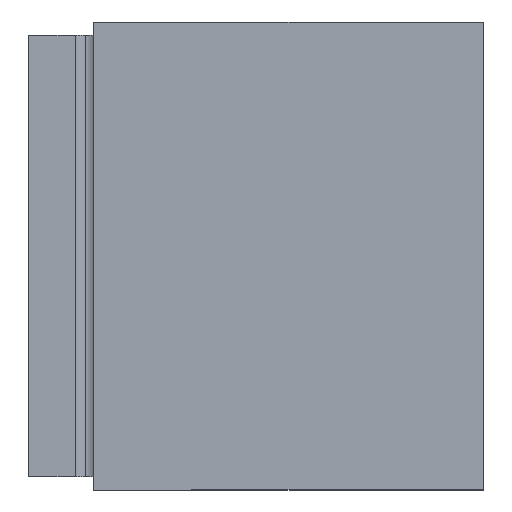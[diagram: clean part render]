
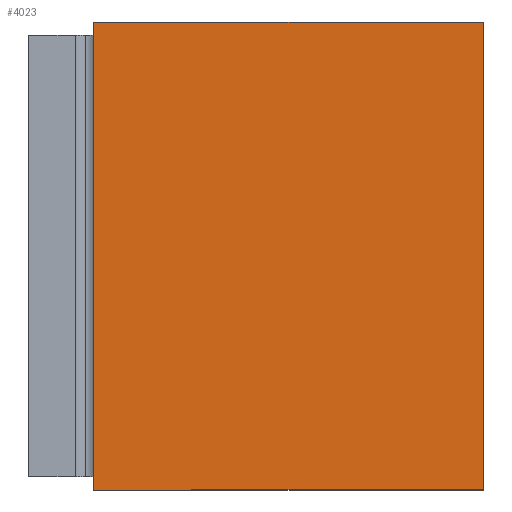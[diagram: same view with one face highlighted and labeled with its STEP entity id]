
A CAD part, left-side view. The second image highlights one B-rep face of the part: STEP entity #4023.
In plain terms, the highlighted planar face has unit normal (-1, 0, 0).
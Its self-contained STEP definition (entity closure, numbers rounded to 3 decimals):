
#90 = EDGE_CURVE ( 'NONE', #6355, #4026, #2183, .T. ) ;
#177 = CARTESIAN_POINT ( 'NONE',  ( -310., 150., 90. ) ) ;
#663 = DIRECTION ( 'NONE',  ( 0., -1., 0. ) ) ;
#947 = EDGE_CURVE ( 'NONE', #5246, #6355, #5294, .T. ) ;
#1073 = DIRECTION ( 'NONE',  ( -1., 0., 0. ) ) ;
#1084 = CARTESIAN_POINT ( 'NONE',  ( -310., 175., -90. ) ) ;
#1583 = CARTESIAN_POINT ( 'NONE',  ( -310., 150., -90. ) ) ;
#1628 = FACE_OUTER_BOUND ( 'NONE', #5851, .T. ) ;
#1806 = EDGE_CURVE ( 'NONE', #3176, #4026, #2793, .T. ) ;
#2183 = LINE ( 'NONE', #2251, #3531 ) ;
#2201 = CARTESIAN_POINT ( 'NONE',  ( -310., 0., -90. ) ) ;
#2251 = CARTESIAN_POINT ( 'NONE',  ( -310., 0., 90. ) ) ;
#2357 = CARTESIAN_POINT ( 'NONE',  ( -310., 0., 90. ) ) ;
#2711 = PLANE ( 'NONE',  #5735 ) ;
#2734 = CARTESIAN_POINT ( 'NONE',  ( -310., 150., 90. ) ) ;
#2768 = DIRECTION ( 'NONE',  ( 0., 0., -1. ) ) ;
#2793 = LINE ( 'NONE', #1084, #6280 ) ;
#3148 = CARTESIAN_POINT ( 'NONE',  ( -310., 175., 90. ) ) ;
#3176 = VERTEX_POINT ( 'NONE', #1583 ) ;
#3210 = DIRECTION ( 'NONE',  ( 0., 0., -1. ) ) ;
#3304 = VECTOR ( 'NONE', #3210, 1000. ) ;
#3531 = VECTOR ( 'NONE', #2768, 1000. ) ;
#3609 = LINE ( 'NONE', #2734, #3304 ) ;
#3762 = VECTOR ( 'NONE', #5215, 1000. ) ;
#4023 = ADVANCED_FACE ( 'NONE', ( #1628 ), #2711, .T. ) ;
#4026 = VERTEX_POINT ( 'NONE', #2201 ) ;
#4340 = CARTESIAN_POINT ( 'NONE',  ( -310., 175., 90. ) ) ;
#4397 = ORIENTED_EDGE ( 'NONE', *, *, #90, .F. ) ;
#4917 = DIRECTION ( 'NONE',  ( 0., 0., 1. ) ) ;
#5134 = ORIENTED_EDGE ( 'NONE', *, *, #1806, .T. ) ;
#5215 = DIRECTION ( 'NONE',  ( 0., -1., 0. ) ) ;
#5246 = VERTEX_POINT ( 'NONE', #177 ) ;
#5294 = LINE ( 'NONE', #3148, #3762 ) ;
#5735 = AXIS2_PLACEMENT_3D ( 'NONE', #4340, #1073, #4917 ) ;
#5851 = EDGE_LOOP ( 'NONE', ( #6064, #6843, #5134, #4397 ) ) ;
#6064 = ORIENTED_EDGE ( 'NONE', *, *, #947, .F. ) ;
#6093 = EDGE_CURVE ( 'NONE', #5246, #3176, #3609, .T. ) ;
#6280 = VECTOR ( 'NONE', #663, 1000. ) ;
#6355 = VERTEX_POINT ( 'NONE', #2357 ) ;
#6843 = ORIENTED_EDGE ( 'NONE', *, *, #6093, .T. ) ;
